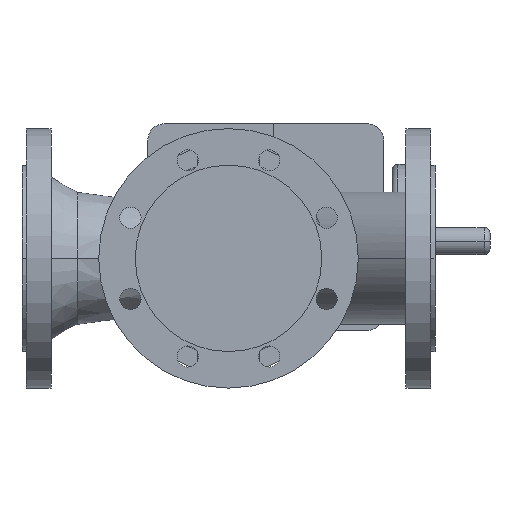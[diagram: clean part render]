
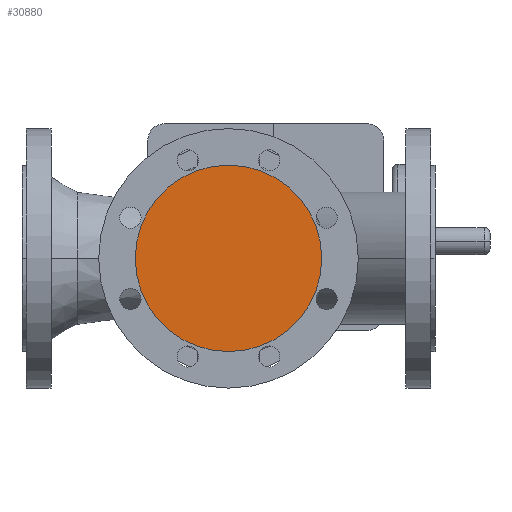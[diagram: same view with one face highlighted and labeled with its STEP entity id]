
A CAD part, front view. The second image highlights one B-rep face of the part: STEP entity #30880.
In plain terms, the highlighted planar face has unit normal (0, -1, 0).
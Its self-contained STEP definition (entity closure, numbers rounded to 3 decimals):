
#5590=CARTESIAN_POINT('',(96.,-150.,0.));
#5600=VERTEX_POINT('',#5590);
#5630=CARTESIAN_POINT('',(175.,-150.,0.));
#5640=DIRECTION('',(0.,1.,0.));
#5650=DIRECTION('',(1.,0.,0.));
#5660=AXIS2_PLACEMENT_3D('',#5630,#5640,#5650);
#5670=CIRCLE('',#5660,79.);
#5680=CARTESIAN_POINT('',(254.,-150.,0.));
#5690=VERTEX_POINT('',#5680);
#5700=EDGE_CURVE('',#5690,#5600,#5670,.T.);
#30780=CARTESIAN_POINT('',(214.5,-150.,0.));
#30790=DIRECTION('',(0.,-1.,0.));
#30800=DIRECTION('',(-1.,0.,0.));
#30810=AXIS2_PLACEMENT_3D('',#30780,#30790,#30800);
#30820=PLANE('',#30810);
#30830=ORIENTED_EDGE('',*,*,#5700,.F.);
#30840=EDGE_CURVE('',#5600,#5690,#5670,.T.);
#30850=ORIENTED_EDGE('',*,*,#30840,.F.);
#30860=EDGE_LOOP('',(#30850,#30830));
#30870=FACE_OUTER_BOUND('',#30860,.T.);
#30880=ADVANCED_FACE('',(#30870),#30820,.T.);
